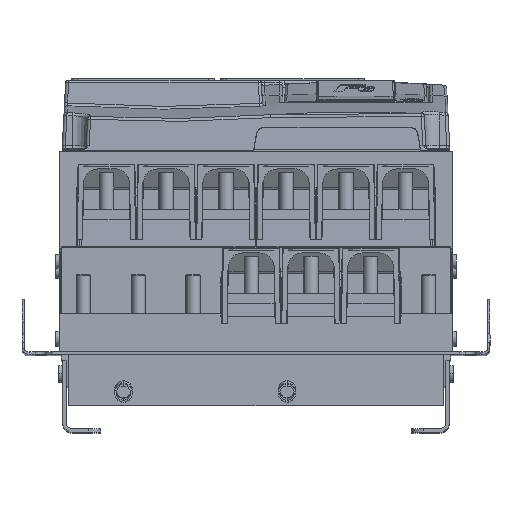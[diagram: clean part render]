
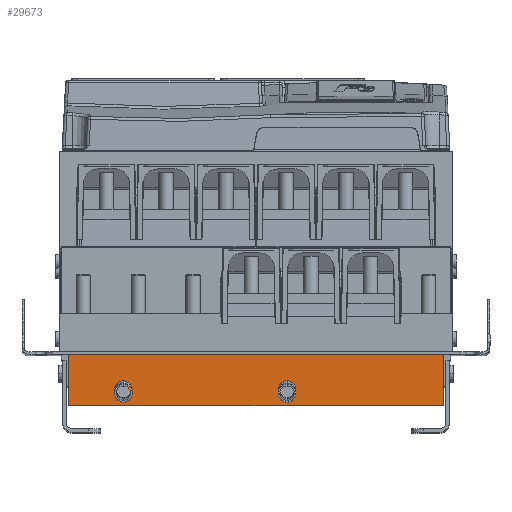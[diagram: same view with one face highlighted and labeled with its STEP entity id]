
A CAD part, top view. The second image highlights one B-rep face of the part: STEP entity #29673.
In plain terms, the highlighted planar face has unit normal (0, 0, 1).
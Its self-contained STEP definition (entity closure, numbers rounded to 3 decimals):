
#674 = CARTESIAN_POINT ( 'NONE',  ( 26., -11.022, 640.5 ) ) ;
#3385 = ORIENTED_EDGE ( 'NONE', *, *, #61206, .T. ) ;
#3443 = CARTESIAN_POINT ( 'NONE',  ( 157., -16., 640.5 ) ) ;
#3556 = DIRECTION ( 'NONE',  ( -1., 0., 0. ) ) ;
#4298 = EDGE_LOOP ( 'NONE', ( #63766, #20730 ) ) ;
#6204 = VECTOR ( 'NONE', #50080, 1000. ) ;
#9273 = CARTESIAN_POINT ( 'NONE',  ( -126., -11.022, 640.5 ) ) ;
#9517 =( BOUNDED_CURVE ( )  B_SPLINE_CURVE ( 3, ( #80725, #85888, #87238, #674 ),
 .UNSPECIFIED., .F., .T. ) 
 B_SPLINE_CURVE_WITH_KNOTS ( ( 4, 4 ),
 ( 0., 3.142 ),
 .UNSPECIFIED. ) 
 CURVE ( )  GEOMETRIC_REPRESENTATION_ITEM ( )  RATIONAL_B_SPLINE_CURVE ( ( 1., 0.333, 0.333, 1. ) ) 
 REPRESENTATION_ITEM ( '' )  );
#12525 = EDGE_LOOP ( 'NONE', ( #39450, #3385, #39115, #20152 ) ) ;
#12750 = CARTESIAN_POINT ( 'NONE',  ( -111., -11.022, 640.5 ) ) ;
#16032 = CARTESIAN_POINT ( 'NONE',  ( 26., 4.94, 640.5 ) ) ;
#19975 = VERTEX_POINT ( 'NONE', #29831 ) ;
#20152 = ORIENTED_EDGE ( 'NONE', *, *, #25469, .F. ) ;
#20730 = ORIENTED_EDGE ( 'NONE', *, *, #80753, .F. ) ;
#23345 = EDGE_CURVE ( 'NONE', #77488, #45113, #25004, .T. ) ;
#25004 =( BOUNDED_CURVE ( )  B_SPLINE_CURVE ( 3, ( #36969, #86795, #79821, #16032 ),
 .UNSPECIFIED., .F., .T. ) 
 B_SPLINE_CURVE_WITH_KNOTS ( ( 4, 4 ),
 ( 3.142, 6.283 ),
 .UNSPECIFIED. ) 
 CURVE ( )  GEOMETRIC_REPRESENTATION_ITEM ( )  RATIONAL_B_SPLINE_CURVE ( ( 1., 0.333, 0.333, 1. ) ) 
 REPRESENTATION_ITEM ( '' )  );
#25469 = EDGE_CURVE ( 'NONE', #37042, #67349, #72991, .T. ) ;
#28761 = VECTOR ( 'NONE', #53124, 1000. ) ;
#29120 = LINE ( 'NONE', #35634, #6204 ) ;
#29673 = ADVANCED_FACE ( 'NONE', ( #46385, #67355, #53383 ), #59446, .F. ) ;
#29831 = CARTESIAN_POINT ( 'NONE',  ( -157., 27., 640.5 ) ) ;
#29992 = EDGE_CURVE ( 'NONE', #37042, #35824, #29120, .T. ) ;
#34375 = EDGE_CURVE ( 'NONE', #45113, #77488, #9517, .T. ) ;
#34574 = EDGE_LOOP ( 'NONE', ( #46462, #53859 ) ) ;
#35634 = CARTESIAN_POINT ( 'NONE',  ( 157., -16., 640.5 ) ) ;
#35824 = VERTEX_POINT ( 'NONE', #42597 ) ;
#36969 = CARTESIAN_POINT ( 'NONE',  ( 26., -11.022, 640.5 ) ) ;
#37040 = CARTESIAN_POINT ( 'NONE',  ( -111., -11.022, 640.5 ) ) ;
#37042 = VERTEX_POINT ( 'NONE', #3443 ) ;
#39115 = ORIENTED_EDGE ( 'NONE', *, *, #43197, .F. ) ;
#39450 = ORIENTED_EDGE ( 'NONE', *, *, #29992, .T. ) ;
#42597 = CARTESIAN_POINT ( 'NONE',  ( 157., 27., 640.5 ) ) ;
#43197 = EDGE_CURVE ( 'NONE', #67349, #19975, #67085, .T. ) ;
#45113 = VERTEX_POINT ( 'NONE', #50014 ) ;
#45660 = CARTESIAN_POINT ( 'NONE',  ( -157., -16., 640.5 ) ) ;
#46385 = FACE_BOUND ( 'NONE', #34574, .T. ) ;
#46462 = ORIENTED_EDGE ( 'NONE', *, *, #34375, .F. ) ;
#49928 = VECTOR ( 'NONE', #3556, 1000. ) ;
#50014 = CARTESIAN_POINT ( 'NONE',  ( 26., 4.94, 640.5 ) ) ;
#50080 = DIRECTION ( 'NONE',  ( 0., 1., 0. ) ) ;
#50397 = EDGE_CURVE ( 'NONE', #72772, #69824, #82916, .T. ) ;
#51560 = DIRECTION ( 'NONE',  ( 0., 1., 0. ) ) ;
#52041 = CARTESIAN_POINT ( 'NONE',  ( 157., -16., 640.5 ) ) ;
#52933 = DIRECTION ( 'NONE',  ( 0., 0., -1. ) ) ;
#53124 = DIRECTION ( 'NONE',  ( 0., 1., 0. ) ) ;
#53382 = CARTESIAN_POINT ( 'NONE',  ( 157., 27., 640.5 ) ) ;
#53383 = FACE_OUTER_BOUND ( 'NONE', #12525, .T. ) ;
#53859 = ORIENTED_EDGE ( 'NONE', *, *, #23345, .F. ) ;
#54306 = LINE ( 'NONE', #53382, #49928 ) ;
#54755 = VECTOR ( 'NONE', #59937, 1000. ) ;
#59446 = PLANE ( 'NONE',  #86481 ) ;
#59937 = DIRECTION ( 'NONE',  ( -1., 0., 0. ) ) ;
#60354 = CARTESIAN_POINT ( 'NONE',  ( 157., -16., 640.5 ) ) ;
#60685 = CARTESIAN_POINT ( 'NONE',  ( 26., -11.022, 640.5 ) ) ;
#61206 = EDGE_CURVE ( 'NONE', #35824, #19975, #54306, .T. ) ;
#63766 = ORIENTED_EDGE ( 'NONE', *, *, #50397, .F. ) ;
#67085 = LINE ( 'NONE', #45660, #28761 ) ;
#67349 = VERTEX_POINT ( 'NONE', #86625 ) ;
#67355 = FACE_BOUND ( 'NONE', #4298, .T. ) ;
#69824 = VERTEX_POINT ( 'NONE', #37040 ) ;
#72548 =( BOUNDED_CURVE ( )  B_SPLINE_CURVE ( 3, ( #12750, #74669, #82122, #89117 ),
 .UNSPECIFIED., .F., .T. ) 
 B_SPLINE_CURVE_WITH_KNOTS ( ( 4, 4 ),
 ( 3.142, 6.283 ),
 .UNSPECIFIED. ) 
 CURVE ( )  GEOMETRIC_REPRESENTATION_ITEM ( )  RATIONAL_B_SPLINE_CURVE ( ( 1., 0.333, 0.333, 1. ) ) 
 REPRESENTATION_ITEM ( '' )  );
#72772 = VERTEX_POINT ( 'NONE', #77373 ) ;
#72991 = LINE ( 'NONE', #52041, #54755 ) ;
#73040 = CARTESIAN_POINT ( 'NONE',  ( -111., 4.94, 640.5 ) ) ;
#74669 = CARTESIAN_POINT ( 'NONE',  ( -96., -11.022, 640.5 ) ) ;
#77373 = CARTESIAN_POINT ( 'NONE',  ( -111., 4.94, 640.5 ) ) ;
#77488 = VERTEX_POINT ( 'NONE', #60685 ) ;
#79821 = CARTESIAN_POINT ( 'NONE',  ( 41., 4.94, 640.5 ) ) ;
#80725 = CARTESIAN_POINT ( 'NONE',  ( 26., 4.94, 640.5 ) ) ;
#80753 = EDGE_CURVE ( 'NONE', #69824, #72772, #72548, .T. ) ;
#82122 = CARTESIAN_POINT ( 'NONE',  ( -96., 4.94, 640.5 ) ) ;
#82916 =( BOUNDED_CURVE ( )  B_SPLINE_CURVE ( 3, ( #73040, #86102, #9273, #87465 ),
 .UNSPECIFIED., .F., .T. ) 
 B_SPLINE_CURVE_WITH_KNOTS ( ( 4, 4 ),
 ( 0., 3.142 ),
 .UNSPECIFIED. ) 
 CURVE ( )  GEOMETRIC_REPRESENTATION_ITEM ( )  RATIONAL_B_SPLINE_CURVE ( ( 1., 0.333, 0.333, 1. ) ) 
 REPRESENTATION_ITEM ( '' )  );
#85888 = CARTESIAN_POINT ( 'NONE',  ( 11., 4.94, 640.5 ) ) ;
#86102 = CARTESIAN_POINT ( 'NONE',  ( -126., 4.94, 640.5 ) ) ;
#86481 = AXIS2_PLACEMENT_3D ( 'NONE', #60354, #52933, #51560 ) ;
#86625 = CARTESIAN_POINT ( 'NONE',  ( -157., -16., 640.5 ) ) ;
#86795 = CARTESIAN_POINT ( 'NONE',  ( 41., -11.022, 640.5 ) ) ;
#87238 = CARTESIAN_POINT ( 'NONE',  ( 11., -11.022, 640.5 ) ) ;
#87465 = CARTESIAN_POINT ( 'NONE',  ( -111., -11.022, 640.5 ) ) ;
#89117 = CARTESIAN_POINT ( 'NONE',  ( -111., 4.94, 640.5 ) ) ;
